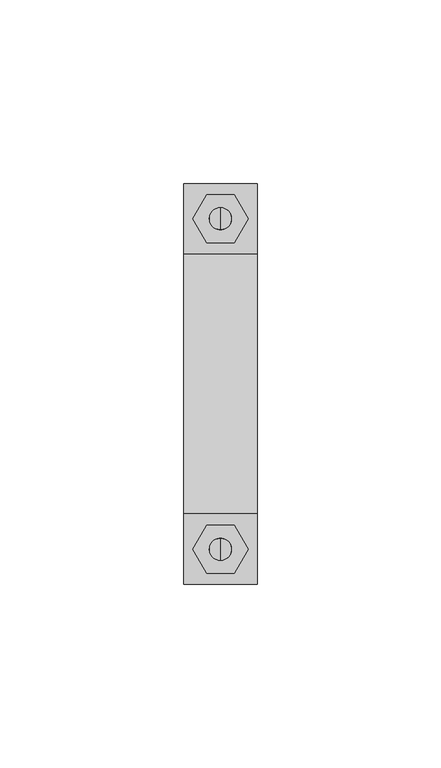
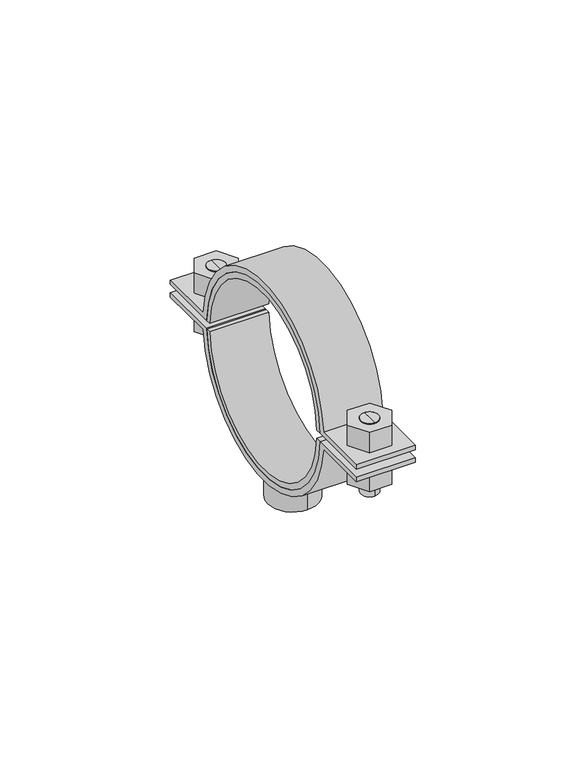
"""IFC4 building model written with IfcOpenShell, lengths in millimetres: valve geometry, Superfix DG2 Clamp (based on pipe) : Superfix DG2 Clamp (based on pipe)."""

from ifc_helpers import new_model, si_unit, point, frame, frame_2d, origin, origin_2d, place, context, project, spatial, polyline, circle_curve, trimmed, segment, composite_curve, outline, extrude, source, transform, mapped, element, save
from ifc_brep_helpers import plane_surface, cylinder_surface, advanced_brep


def valve_9e9896a5(model_context):
    return source(origin(), model_context, "Body", "SolidModel", [
        advanced_brep(
        [(0.0, 48.0, 342.9002332), (0.0, 42.0, 342.9002332), (0.0, 42.0, 357.0002332), (0.0, 48.0, 357.0002332), (0.0, 45.0, 342.9002332)],
        [
            (0, 1, circle_curve(frame((0.0, 45.0, 342.9002332), z_axis=(0.0, 0.0, 1.0), x_axis=(0.0, 1.0, 0.0)), 3.0)),
            (1, 2),
            (2, 3, circle_curve(frame((0.0, 45.0, 357.0002332), z_axis=(0.0, 0.0, -1.0), x_axis=(0.0, 1.0, 0.0)), 3.0)),
            (3, 0),
            (1, 0, circle_curve(frame((0.0, 45.0, 342.9002332), z_axis=(0.0, 0.0, 1.0), x_axis=(0.0, 1.0, 0.0)), 3.0)),
            (3, 2, circle_curve(frame((0.0, 45.0, 357.0002332), z_axis=(0.0, 0.0, -1.0), x_axis=(0.0, 1.0, 0.0)), 3.0)),
            (0, 4),
            (4, 1),
        ],
        [
            cylinder_surface(frame((0.0, 45.0, 356.7808426), z_axis=(0.0, 0.0, 1.0), x_axis=(0.0, 1.0, 0.0)), 3.0),
            plane_surface(frame((0.0, 45.0, 342.9002332), z_axis=(0.0, 0.0, -1.0), x_axis=(0.0, 1.0, 0.0))),
            plane_surface(frame((13.75, -54.5, 357.0002332), z_axis=(0.0, 0.0, 1.0), x_axis=(-1.0, 0.0, 0.0))),
        ],
        [
            (0, [[1, 2, 3, 4]]),
            (0, [[5, -4, 6, -2]]),
            (1, [[-1, 7, 8]]),
            (1, [[-5, -8, -7]]),
            (2, [[-3, -6]]),
        ],
    ),
        advanced_brep(
        [(0.0, 42.0, 369.1002332), (0.0, 48.0, 369.1002332), (0.0, 48.0, 360.0002332), (0.0, 42.0, 360.0002332), (0.0, 45.0, 369.1002332)],
        [
            (0, 1, circle_curve(frame((0.0, 45.0, 369.1002332), z_axis=(0.0, 0.0, -1.0), x_axis=(0.0, 1.0, 0.0)), 3.0)),
            (1, 2),
            (2, 3, circle_curve(frame((0.0, 45.0, 360.0002332), z_axis=(0.0, 0.0, 1.0), x_axis=(0.0, 1.0, 0.0)), 3.0)),
            (3, 0),
            (1, 0, circle_curve(frame((0.0, 45.0, 369.1002332), z_axis=(0.0, 0.0, -1.0), x_axis=(0.0, 1.0, 0.0)), 3.0)),
            (3, 2, circle_curve(frame((0.0, 45.0, 360.0002332), z_axis=(0.0, 0.0, 1.0), x_axis=(0.0, 1.0, 0.0)), 3.0)),
            (0, 4),
            (4, 1),
        ],
        [
            cylinder_surface(frame((0.0, 45.0, 356.7808426), z_axis=(0.0, 0.0, 1.0), x_axis=(0.0, 1.0, 0.0)), 3.0),
            plane_surface(frame((0.0, 45.0, 369.1002332), z_axis=(0.0, 0.0, 1.0), x_axis=(0.0, 1.0, 0.0))),
            plane_surface(frame((13.75, 54.5, 360.0002332), z_axis=(0.0, 0.0, -1.0), x_axis=(-1.0, 0.0, 0.0))),
        ],
        [
            (0, [[1, 2, 3, 4]]),
            (0, [[5, -4, 6, -2]]),
            (1, [[-1, 7, 8]]),
            (1, [[-5, -8, -7]]),
            (2, [[-3, -6]]),
        ],
    ),
        advanced_brep(
        [(0.0, -48.0, 369.1002332), (0.0, -42.0, 369.1002332), (0.0, -42.0, 360.0002332), (0.0, -48.0, 360.0002332), (0.0, -45.0, 369.1002332)],
        [
            (0, 1, circle_curve(frame((0.0, -45.0, 369.1002332), z_axis=(0.0, 0.0, -1.0), x_axis=(0.0, -1.0, 0.0)), 3.0)),
            (1, 2),
            (2, 3, circle_curve(frame((0.0, -45.0, 360.0002332), z_axis=(0.0, 0.0, 1.0), x_axis=(0.0, -1.0, 0.0)), 3.0)),
            (3, 0),
            (1, 0, circle_curve(frame((0.0, -45.0, 369.1002332), z_axis=(0.0, 0.0, -1.0), x_axis=(0.0, -1.0, 0.0)), 3.0)),
            (3, 2, circle_curve(frame((0.0, -45.0, 360.0002332), z_axis=(0.0, 0.0, 1.0), x_axis=(0.0, -1.0, 0.0)), 3.0)),
            (0, 4),
            (4, 1),
        ],
        [
            cylinder_surface(frame((0.0, -45.0, 356.7808426), z_axis=(0.0, 0.0, -1.0), x_axis=(0.0, -1.0, 0.0)), 3.0),
            plane_surface(frame((0.0, -45.0, 369.1002332), z_axis=(0.0, 0.0, 1.0), x_axis=(0.0, -1.0, 0.0))),
            plane_surface(frame((13.75, 54.5, 360.0002332), z_axis=(0.0, 0.0, -1.0), x_axis=(-1.0, 0.0, 0.0))),
        ],
        [
            (0, [[1, 2, 3, 4]]),
            (0, [[5, -4, 6, -2]]),
            (1, [[-1, 7, 8]]),
            (1, [[-5, -8, -7]]),
            (2, [[-3, -6]]),
        ],
    ),
        advanced_brep(
        [(0.0, -42.0, 342.9002332), (0.0, -48.0, 342.9002332), (0.0, -48.0, 357.0002332), (0.0, -42.0, 357.0002332), (0.0, -45.0, 342.9002332)],
        [
            (0, 1, circle_curve(frame((0.0, -45.0, 342.9002332), z_axis=(0.0, 0.0, 1.0), x_axis=(0.0, -1.0, 0.0)), 3.0)),
            (1, 2),
            (2, 3, circle_curve(frame((0.0, -45.0, 357.0002332), z_axis=(0.0, 0.0, -1.0), x_axis=(0.0, -1.0, 0.0)), 3.0)),
            (3, 0),
            (1, 0, circle_curve(frame((0.0, -45.0, 342.9002332), z_axis=(0.0, 0.0, 1.0), x_axis=(0.0, -1.0, 0.0)), 3.0)),
            (3, 2, circle_curve(frame((0.0, -45.0, 357.0002332), z_axis=(0.0, 0.0, -1.0), x_axis=(0.0, -1.0, 0.0)), 3.0)),
            (0, 4),
            (4, 1),
        ],
        [
            cylinder_surface(frame((0.0, -45.0, 356.7808426), z_axis=(0.0, 0.0, -1.0), x_axis=(0.0, -1.0, 0.0)), 3.0),
            plane_surface(frame((0.0, -45.0, 342.9002332), z_axis=(0.0, 0.0, -1.0), x_axis=(0.0, -1.0, 0.0))),
            plane_surface(frame((13.75, -54.5, 357.0002332), z_axis=(0.0, 0.0, 1.0), x_axis=(-1.0, 0.0, 0.0))),
        ],
        [
            (0, [[1, 2, 3, 4]]),
            (0, [[5, -4, 6, -2]]),
            (1, [[-1, 7, 8]]),
            (1, [[-5, -8, -7]]),
            (2, [[-3, -6]]),
        ],
    ),
        extrude(outline(composite_curve([segment(trimmed(circle_curve(frame_2d((0.0, 358.5002332)), 33.5), [point((-33.4664011, 357.0002332))], [point((33.4664011, 357.0002332))], True, "CARTESIAN"), True, "CONTINUOUS"), segment(polyline([(33.4664011, 357.0002332), (54.5, 357.0002332), (54.5, 355.5002332), (35.3730123, 355.5002332)]), True, "CONTINUOUS"), segment(trimmed(circle_curve(frame_2d((0.0, 358.5002332)), 35.5), [point((35.3730123, 355.5002332))], [point((-35.3730123, 355.5002332))], False, "CARTESIAN"), True, "CONTINUOUS"), segment(polyline([(-35.3730123, 355.5002332), (-54.5, 355.5002332), (-54.5, 357.0002332), (-33.4664011, 357.0002332)]), True, "CONTINUOUS")], self_intersect=False)), frame((-10.0, 0.0, 0.0), z_axis=(1.0, 0.0, 0.0), x_axis=(0.0, 1.0, 0.0)), (0.0, 0.0, 1.0), 20.0),
        extrude(outline(composite_curve([segment(trimmed(circle_curve(frame_2d((0.0, 358.5002332)), 33.5), [point((33.4664011, 360.0002332))], [point((-33.4664011, 360.0002332))], True, "CARTESIAN"), True, "CONTINUOUS"), segment(polyline([(-33.4664011, 360.0002332), (-54.5, 360.0002332), (-54.5, 361.5002332), (-35.3730123, 361.5002332)]), True, "CONTINUOUS"), segment(trimmed(circle_curve(frame_2d((0.0, 358.5002332)), 35.5), [point((-35.3730123, 361.5002332))], [point((35.3730123, 361.5002332))], False, "CARTESIAN"), True, "CONTINUOUS"), segment(polyline([(35.3730123, 361.5002332), (54.5, 361.5002332), (54.5, 360.0002332), (33.4664011, 360.0002332)]), True, "CONTINUOUS")], self_intersect=False)), frame((-10.0, 0.0, 0.0), z_axis=(1.0, 0.0, 0.0), x_axis=(0.0, 1.0, 0.0)), (0.0, 0.0, 1.0), 20.0),
        extrude(outline(polyline([(7.5055535, -45.0), (3.7527767, -51.5), (-3.7527767, -51.5), (-7.5055535, -45.0), (-3.7527767, -38.5), (3.7527767, -38.5), (7.5055535, -45.0)]), holes=[composite_curve([segment(trimmed(circle_curve(frame_2d((0.0, -45.0)), 3.0), [point((3.0, -45.0))], [point((-3.0, -45.0))], True, "CARTESIAN"), True, "CONTINUOUS"), segment(trimmed(circle_curve(frame_2d((0.0, -45.0)), 3.0), [point((-3.0, -45.0))], [point((3.0, -45.0))], True, "CARTESIAN"), True, "CONTINUOUS")], self_intersect=False)]), frame((0.0, 0.0, 361.5002332), z_axis=(0.0, 0.0, 1.0), x_axis=(1.0, 0.0, 0.0)), (0.0, 0.0, 1.0), 7.6),
        extrude(outline(polyline([(7.5055535, 45.0), (3.7527767, 38.5), (-3.7527767, 38.5), (-7.5055535, 45.0), (-3.7527767, 51.5), (3.7527767, 51.5), (7.5055535, 45.0)]), holes=[composite_curve([segment(trimmed(circle_curve(frame_2d((0.0, 45.0)), 3.0), [point((3.0, 45.0))], [point((-3.0, 45.0))], True, "CARTESIAN"), True, "CONTINUOUS"), segment(trimmed(circle_curve(frame_2d((0.0, 45.0)), 3.0), [point((-3.0, 45.0))], [point((3.0, 45.0))], True, "CARTESIAN"), True, "CONTINUOUS")], self_intersect=False)]), frame((0.0, 0.0, 361.5002332), z_axis=(0.0, 0.0, 1.0), x_axis=(1.0, 0.0, 0.0)), (0.0, 0.0, 1.0), 7.6),
        extrude(outline(polyline([(7.5055535, -45.0), (3.7527767, -51.5), (-3.7527767, -51.5), (-7.5055535, -45.0), (-3.7527767, -38.5), (3.7527767, -38.5), (7.5055535, -45.0)]), holes=[composite_curve([segment(trimmed(circle_curve(frame_2d((0.0, -45.0)), 3.0), [point((3.0, -45.0))], [point((-3.0, -45.0))], True, "CARTESIAN"), True, "CONTINUOUS"), segment(trimmed(circle_curve(frame_2d((0.0, -45.0)), 3.0), [point((-3.0, -45.0))], [point((3.0, -45.0))], True, "CARTESIAN"), True, "CONTINUOUS")], self_intersect=False)]), frame((0.0, 0.0, 347.9002332), z_axis=(0.0, 0.0, 1.0), x_axis=(1.0, 0.0, 0.0)), (0.0, 0.0, 1.0), 7.6),
        extrude(outline(polyline([(7.5055535, 45.0), (3.7527767, 38.5), (-3.7527767, 38.5), (-7.5055535, 45.0), (-3.7527767, 51.5), (3.7527767, 51.5), (7.5055535, 45.0)]), holes=[composite_curve([segment(trimmed(circle_curve(frame_2d((0.0, 45.0)), 3.0), [point((3.0, 45.0))], [point((-3.0, 45.0))], True, "CARTESIAN"), True, "CONTINUOUS"), segment(trimmed(circle_curve(frame_2d((0.0, 45.0)), 3.0), [point((-3.0, 45.0))], [point((3.0, 45.0))], True, "CARTESIAN"), True, "CONTINUOUS")], self_intersect=False)]), frame((0.0, 0.0, 347.9002332), z_axis=(0.0, 0.0, 1.0), x_axis=(1.0, 0.0, 0.0)), (0.0, 0.0, 1.0), 7.6),
        extrude(outline(composite_curve([segment(trimmed(circle_curve(origin_2d(), 8.5), [point((0.0, 8.5))], [point((0.0, -8.5))], False, "CARTESIAN"), True, "CONTINUOUS"), segment(trimmed(circle_curve(origin_2d(), 8.5), [point((0.0, -8.5))], [point((0.0, 8.5))], False, "CARTESIAN"), True, "CONTINUOUS")], self_intersect=False), holes=[composite_curve([segment(trimmed(circle_curve(origin_2d(), 5.0), [point((0.0, 5.0))], [point((0.0, -5.0))], True, "CARTESIAN"), True, "CONTINUOUS"), segment(trimmed(circle_curve(origin_2d(), 5.0), [point((0.0, -5.0))], [point((0.0, 5.0))], True, "CARTESIAN"), True, "CONTINUOUS")], self_intersect=False)]), frame((0.0, 0.0, 314.0002332), z_axis=(0.0, 0.0, 1.0), x_axis=(1.0, 0.0, 0.0)), (0.0, 0.0, 1.0), 11.5),
        extrude(outline(composite_curve([segment(trimmed(circle_curve(frame_2d((0.0, 358.5002332)), 31.5), [point((31.4642654, 360.0002332))], [point((-31.4642654, 360.0002332))], True, "CARTESIAN"), True, "CONTINUOUS"), segment(polyline([(-31.4642654, 360.0002332), (-33.4664011, 360.0002332)]), True, "CONTINUOUS"), segment(trimmed(circle_curve(frame_2d((0.0, 358.5002332)), 33.5), [point((-33.4664011, 360.0002332))], [point((33.4664011, 360.0002332))], False, "CARTESIAN"), True, "CONTINUOUS"), segment(polyline([(33.4664011, 360.0002332), (31.4642654, 360.0002332)]), True, "CONTINUOUS")], self_intersect=False)), frame((-10.0, 0.0, 0.0), z_axis=(1.0, 0.0, 0.0), x_axis=(0.0, 1.0, 0.0)), (0.0, 0.0, 1.0), 20.0),
        extrude(outline(composite_curve([segment(polyline([(31.4642654, 357.0002332), (33.4664011, 357.0002332)]), True, "CONTINUOUS"), segment(trimmed(circle_curve(frame_2d((0.0, 358.5002332)), 33.5), [point((33.4664011, 357.0002332))], [point((-33.4664011, 357.0002332))], False, "CARTESIAN"), True, "CONTINUOUS"), segment(polyline([(-33.4664011, 357.0002332), (-31.4642654, 357.0002332)]), True, "CONTINUOUS"), segment(trimmed(circle_curve(frame_2d((0.0, 358.5002332)), 31.5), [point((-31.4642654, 357.0002332))], [point((31.4642654, 357.0002332))], True, "CARTESIAN"), True, "CONTINUOUS")], self_intersect=False)), frame((-10.0, 0.0, 0.0), z_axis=(1.0, 0.0, 0.0), x_axis=(0.0, 1.0, 0.0)), (0.0, 0.0, 1.0), 20.0),
    ])


if __name__ == "__main__":
    model = new_model("IFC4")
    model_context = context("Model", 3, world=origin())
    ifc_project = project(units=[si_unit("LENGTHUNIT", "METRE", prefix="MILLI")], contexts=[model_context])
    site = spatial("IfcSite", under=ifc_project)
    building = spatial("IfcBuilding", under=site)
    placement = place(None, origin())
    valve_shape = valve_9e9896a5(model_context)
    element("IfcValve", 1, ObjectType="Superfix DG2 Clamp (based on pipe) : Superfix DG2 Clamp (based on pipe)", at=placement, inside=building, context=model_context, shape_type="MappedRepresentation", body=[
        mapped(valve_shape, transform((0.0, 0.0, 0.0), x_axis=(1.0, 0.0, 0.0), y_axis=(0.0, 1.0, 0.0), z_axis=(0.0, 0.0, 1.0))),
    ])
    save(model, "model.ifc")
